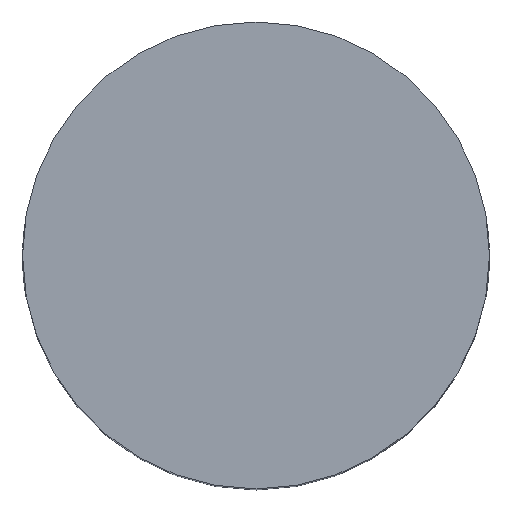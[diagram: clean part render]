
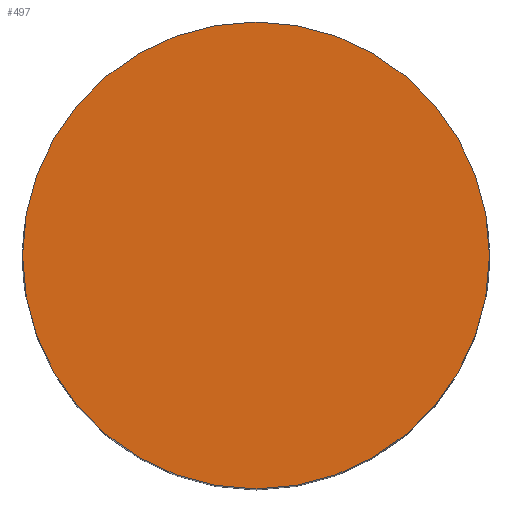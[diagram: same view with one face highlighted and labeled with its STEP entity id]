
A CAD part, top view. The second image highlights one B-rep face of the part: STEP entity #497.
In plain terms, the highlighted planar face has unit normal (0, 0, 1).
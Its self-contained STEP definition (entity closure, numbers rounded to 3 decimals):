
#168=CARTESIAN_POINT('',(0.,0.,7.7));
#169=DIRECTION('',(0.,0.,1.));
#170=DIRECTION('',(1.,0.,0.));
#171=AXIS2_PLACEMENT_3D('',#168,#169,#170);
#173=CARTESIAN_POINT('',(0.,0.,7.7));
#174=DIRECTION('',(0.,0.,1.));
#175=DIRECTION('',(-1.,0.,0.));
#176=AXIS2_PLACEMENT_3D('',#173,#174,#175);
#178=CARTESIAN_POINT('',(1.75,0.,7.7));
#179=CARTESIAN_POINT('',(-1.75,0.,7.7));
#180=VERTEX_POINT('',#178);
#181=VERTEX_POINT('',#179);
#488=CARTESIAN_POINT('',(0.,0.,7.7));
#489=DIRECTION('',(0.,0.,1.));
#490=DIRECTION('',(1.,0.,0.));
#491=AXIS2_PLACEMENT_3D('',#488,#489,#490);
#492=PLANE('',#491);
#493=ORIENTED_EDGE('',*,*,#374,.F.);
#494=ORIENTED_EDGE('',*,*,#354,.F.);
#495=EDGE_LOOP('',(#493,#494));
#496=FACE_OUTER_BOUND('',#495,.F.);
#497=ADVANCED_FACE('',(#496),#492,.T.);
#172=CIRCLE('',#171,1.75);
#177=CIRCLE('',#176,1.75);
#354=EDGE_CURVE('',#181,#180,#177,.T.);
#374=EDGE_CURVE('',#180,#181,#172,.T.);
